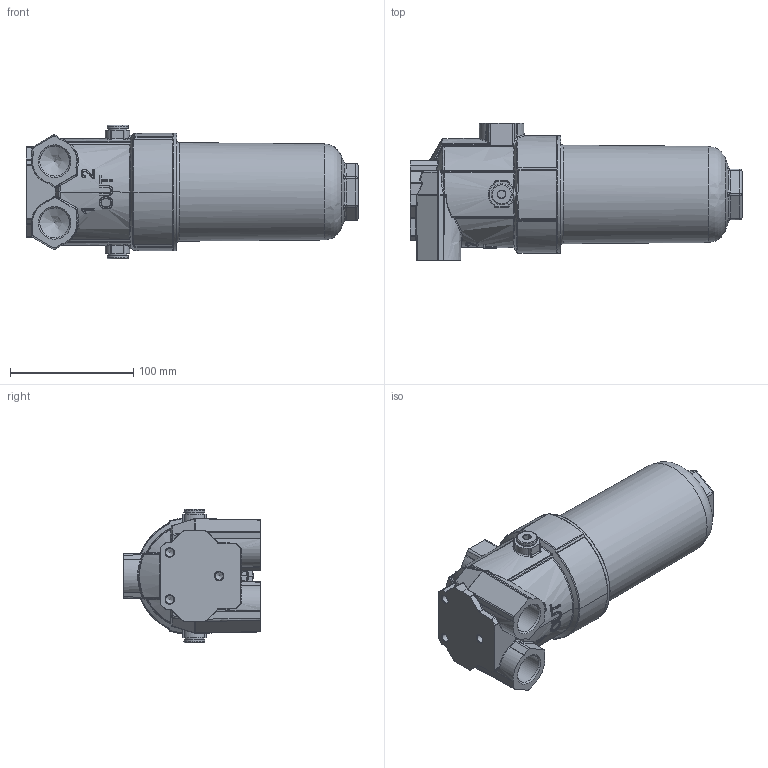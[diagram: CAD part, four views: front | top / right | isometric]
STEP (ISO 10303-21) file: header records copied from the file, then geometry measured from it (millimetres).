
FILE_DESCRIPTION((''),'2;1');
FILE_NAME('U:\Users\t.schleuter\E088-158.stp','2013-04-23T13:38:02', ('User'),('SDRC'),'I-DEAS Master Series 9','UNIX','Yes');
FILE_SCHEMA(('AUTOMOTIVE_DESIGN { 1 0 10303 214 1 1 1 1 }'));
Length unit declared in the file: millimetre
Products named in the file (1): 27918000(286022)
Bounding box: 269 x 111 x 108.19 mm (x, y, z)
Volume: 1434440.1 mm3; surface area: 96050.8 mm2
Topology: 1 solids, 4 shells, 1394 faces, 3235 edges, 1740 vertices
Faces by surface type: bspline 1394
Entity records: 50824 total; most frequent: CARTESIAN_POINT 33342, ORIENTED_EDGE 6190, EDGE_CURVE 3095, B_SPLINE_CURVE_WITH_KNOTS 1794, VERTEX_POINT 1734, EDGE_LOOP 1423, FACE_OUTER_BOUND 1394, ADVANCED_FACE 1394
